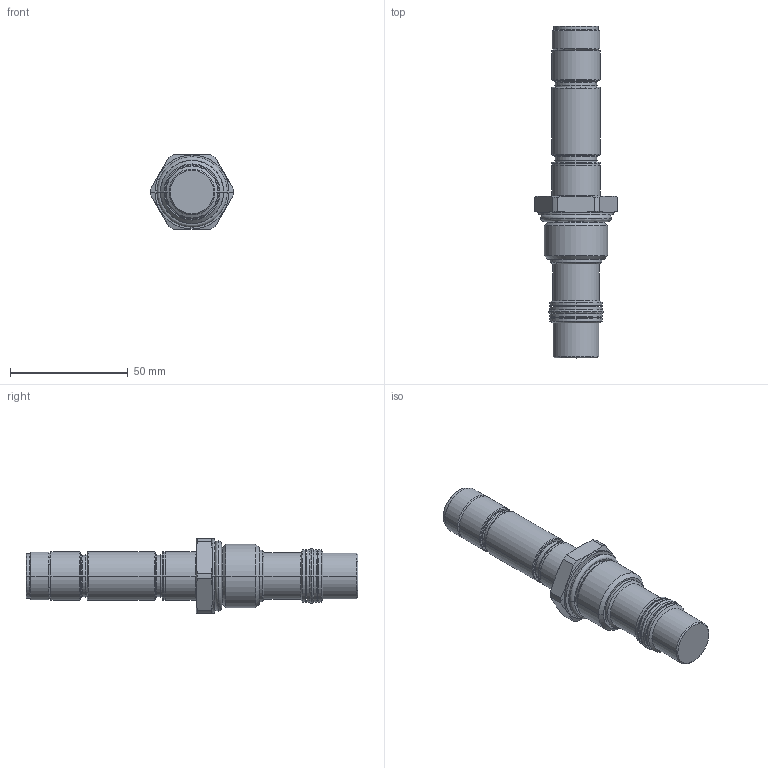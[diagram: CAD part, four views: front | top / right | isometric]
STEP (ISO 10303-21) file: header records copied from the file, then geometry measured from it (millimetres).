
FILE_DESCRIPTION((''),'2;1');
FILE_NAME('5144000_SW0001','2009-03-17T',('jcs'),(''),'PRO/ENGINEER BY PARAMETRIC TECHNOLOGY CORPORATION, 2008010','PRO/ENGINEER BY PARAMETRIC TECHNOLOGY CORPORATION, 2008010','');
FILE_SCHEMA(('CONFIG_CONTROL_DESIGN'));
Length unit declared in the file: inch
Products named in the file (1): 5144000_SW0001
Bounding box: 35.3 x 141.13 x 31.75 mm (x, y, z)
Volume: 53995.6 mm3; surface area: 13719.7 mm2
Topology: 3 solids, 3 shells, 168 faces, 360 edges, 212 vertices
Faces by surface type: cylinder 66, cone 38, plane 26, torus 22, revolution 16
Entity records: 4934 total; most frequent: CARTESIAN_POINT 1150, DIRECTION 862, ORIENTED_EDGE 720, AXIS2_PLACEMENT_3D 368, EDGE_CURVE 360, CIRCLE 216, VERTEX_POINT 212, EDGE_LOOP 186
